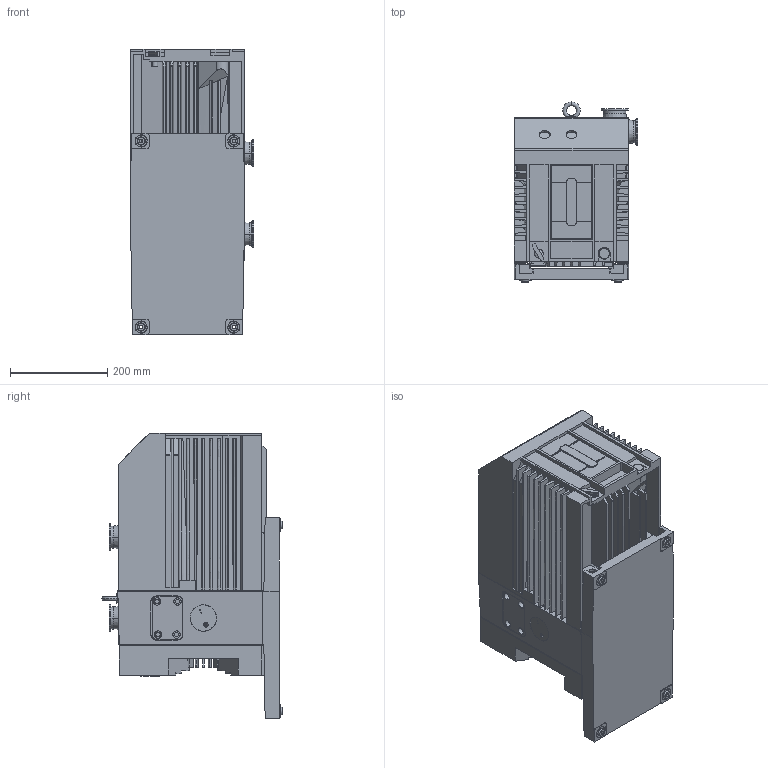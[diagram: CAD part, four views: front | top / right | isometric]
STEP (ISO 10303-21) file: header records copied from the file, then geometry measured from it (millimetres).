
FILE_DESCRIPTION((''),'2;1');
FILE_NAME('300591134_Y19_000_ASM','2016-03-09T',('56762'),('Copyright by Leybold GmbH'),'PRO/ENGINEER BY PARAMETRIC TECHNOLOGY CORPORATION, 2013320','PRO/ENGINEER BY PARAMETRIC TECHNOLOGY CORPORATION, 2013320','');
FILE_SCHEMA(('AUTOMOTIVE_DESIGN { 1 0 10303 214 1 1 1 1 }'));
Length unit declared in the file: millimetre
Products named in the file (20): 300590952_Y19_000; 300591010_Y19_000; 300590956_Y19_000; 300591125_Y19_000; 300591126_Y19_000; 300591127_Y19_000; 300591136_Y19_000; 300590949_Y19_000; 300590947_Y19_000; 300590946_Y19_000; 300591132_Y19_000_ASM; 300590938_Y19_000; 300590936_Y19_000; 300590913_Y19_000; 300590922_Y19_000_ASM; 300590935_Y19_000; 300590934_Y19_000; 300590933_Y19_000; 300590931_Y19_000; 300591134_Y19_000_ASM
Assembly tree (28 placements, depth 3):
  300591134_Y19_000_ASM
    300591132_Y19_000_ASM
      300590952_Y19_000
      300591010_Y19_000
      300590956_Y19_000
      300591125_Y19_000
      300591126_Y19_000
      300591127_Y19_000
      300591136_Y19_000
      300590949_Y19_000
      300590947_Y19_000
      300590946_Y19_000
    300590938_Y19_000  x4
    300590936_Y19_000
    300590922_Y19_000_ASM
      300590913_Y19_000
    300590935_Y19_000  x3
    300590934_Y19_000  x4
    300590933_Y19_000
    300590931_Y19_000  x2
Bounding box: 253.5 x 369.5 x 586.5 mm (x, y, z)
Volume: 32246774.6 mm3; surface area: 2151639.5 mm2
Topology: 27 solids, 30 shells, 1326 faces, 3393 edges, 2218 vertices
Faces by surface type: plane 829, cylinder 331, cone 117, bspline 34, torus 9, sphere 4, extrusion 2
Entity records: 36334 total; most frequent: CARTESIAN_POINT 7903, ORIENTED_EDGE 5684, DIRECTION 5584, EDGE_CURVE 2842, VECTOR 2048, LINE 2046, VERTEX_POINT 1863, AXIS2_PLACEMENT_3D 1768
